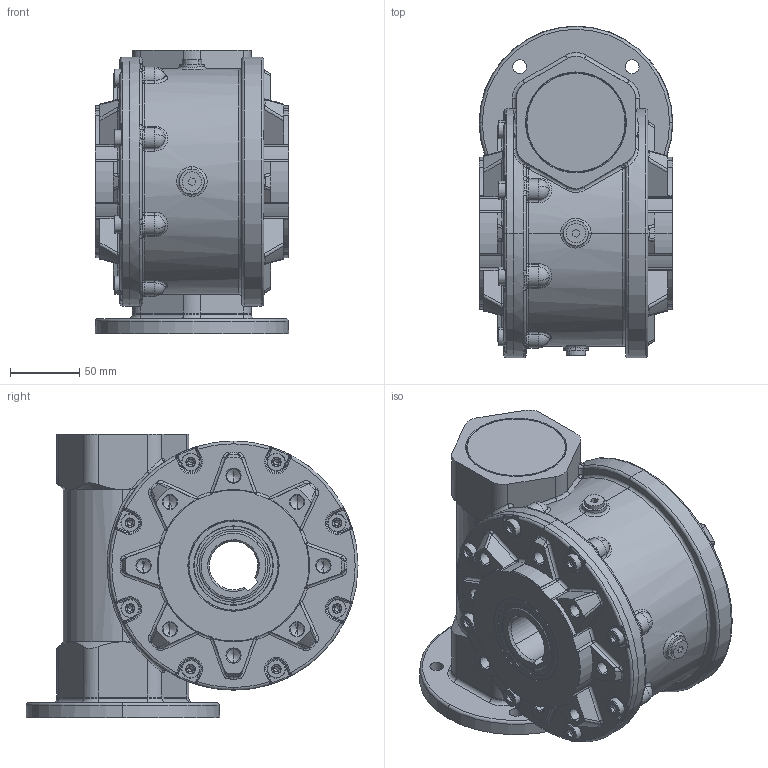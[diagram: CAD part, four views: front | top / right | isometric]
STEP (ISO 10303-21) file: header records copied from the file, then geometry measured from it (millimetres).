
FILE_DESCRIPTION (( 'STEP AP203' ), '1' );
FILE_NAME ('Sestava MRT80A-FT.STEP', '2005-08-15T05:24:05', ( '' ), ( '' ), 'SwSTEP 2.0', 'SolidWorks 2004146', '' );
FILE_SCHEMA (( 'CONFIG_CONTROL_DESIGN' ));
Products named in the file (1): Sestava MRT80A-FT
Bounding box: 140.1 x 240 x 205 mm (x, y, z)
Volume: 2219806.5 mm3; surface area: 576405.2 mm2
Topology: 30 solids, 30 shells, 3251 faces, 8150 edges, 4706 vertices
Faces by surface type: cylinder 826, torus 807, plane 560, cone 477, bspline 381, sphere 200
Entity records: 286208 total; most frequent: CARTESIAN_POINT 212338, DIRECTION 15900, ORIENTED_EDGE 15548, EDGE_CURVE 7774, AXIS2_PLACEMENT_3D 7072, VERTEX_POINT 4594, CIRCLE 4201, EDGE_LOOP 3452
